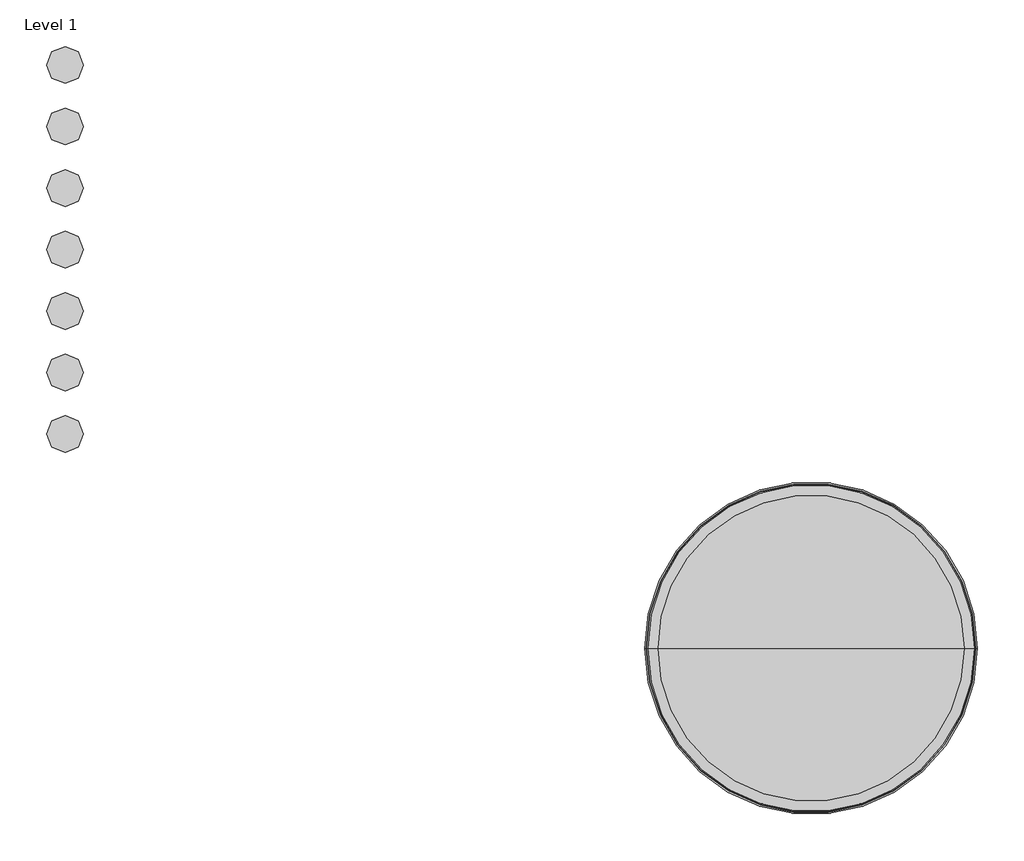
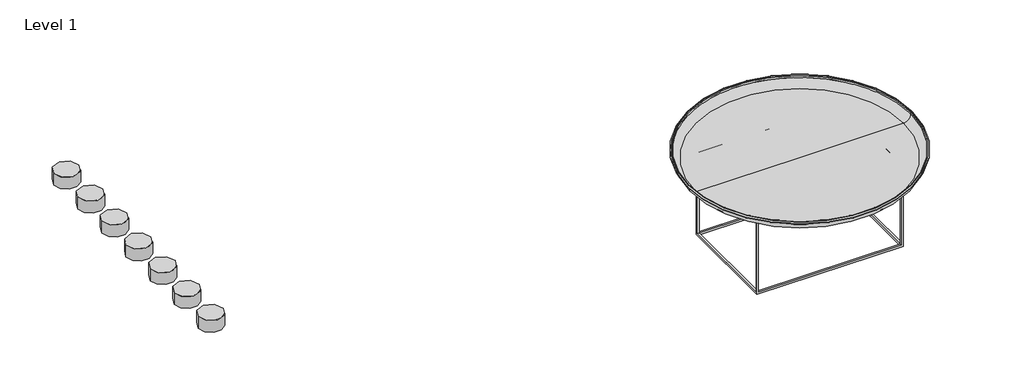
# One storey, incomplete: 7 proxies, 1 furniture element.
"""IFC4 building model written with IfcOpenShell, lengths in millimetres."""

from ifc_helpers import new_model, si_unit, origin, place, context, project, spatial, transform, mapped, element, save
from components import materialmodel_materialmodel_02e69005, furniture_5a91d970

model = new_model("IFC4")

# Units and contexts
model_context = context("Model", 3, world=origin())
ifc_project = project(units=[si_unit("LENGTHUNIT", "METRE", prefix="MILLI")], contexts=[model_context])

# Site, building, storey
site = spatial("IfcSite", under=ifc_project)
building = spatial("IfcBuilding", under=site)
storey = spatial("IfcBuildingStorey", under=building, Name="Level 1", Elevation=0.0)

# Proxies
placement = place(None, origin())
materialmodel_materialmodel_shape = materialmodel_materialmodel_02e69005(model_context)
element("IfcBuildingElementProxy", 1, Name="MaterialModel : MaterialModel", ObjectType="MaterialModel : MaterialModel", at=placement, inside=storey, context=model_context, shape_type="MappedRepresentation", body=[
    mapped(materialmodel_materialmodel_shape, transform((-4609.0792248, 4217.7392993, 0.0), x_axis=(1.0, 0.0, 0.0), y_axis=(0.0, 1.0, 0.0), z_axis=(0.0, 0.0, 1.0))),
])
element("IfcBuildingElementProxy", 2, Name="MaterialModel : MaterialModel", ObjectType="MaterialModel : MaterialModel", at=placement, inside=storey, context=model_context, shape_type="MappedRepresentation", body=[
    mapped(materialmodel_materialmodel_shape, transform((-4609.0792248, 4051.0726327, 0.0), x_axis=(1.0, 0.0, 0.0), y_axis=(0.0, 1.0, 0.0), z_axis=(0.0, 0.0, 1.0))),
])
element("IfcBuildingElementProxy", 3, Name="MaterialModel : MaterialModel", ObjectType="MaterialModel : MaterialModel", at=placement, inside=storey, context=model_context, shape_type="MappedRepresentation", body=[
    mapped(materialmodel_materialmodel_shape, transform((-4609.0792248, 3884.405966, 0.0), x_axis=(1.0, 0.0, 0.0), y_axis=(0.0, 1.0, 0.0), z_axis=(0.0, 0.0, 1.0))),
])
element("IfcBuildingElementProxy", 4, Name="MaterialModel : MaterialModel", ObjectType="MaterialModel : MaterialModel", at=placement, inside=storey, context=model_context, shape_type="MappedRepresentation", body=[
    mapped(materialmodel_materialmodel_shape, transform((-4609.0792248, 3717.7392993, 0.0), x_axis=(1.0, 0.0, 0.0), y_axis=(0.0, 1.0, 0.0), z_axis=(0.0, 0.0, 1.0))),
])
element("IfcBuildingElementProxy", 5, Name="MaterialModel : MaterialModel", ObjectType="MaterialModel : MaterialModel", at=placement, inside=storey, context=model_context, shape_type="MappedRepresentation", body=[
    mapped(materialmodel_materialmodel_shape, transform((-4609.0792248, 3551.0726327, 0.0), x_axis=(1.0, 0.0, 0.0), y_axis=(0.0, 1.0, 0.0), z_axis=(0.0, 0.0, 1.0))),
])
element("IfcBuildingElementProxy", 6, Name="MaterialModel : MaterialModel", ObjectType="MaterialModel : MaterialModel", at=placement, inside=storey, context=model_context, shape_type="MappedRepresentation", body=[
    mapped(materialmodel_materialmodel_shape, transform((-4609.0792248, 3384.405966, 0.0), x_axis=(1.0, 0.0, 0.0), y_axis=(0.0, 1.0, 0.0), z_axis=(0.0, 0.0, 1.0))),
])
element("IfcBuildingElementProxy", 7, Name="MaterialModel : MaterialModel", ObjectType="MaterialModel : MaterialModel", at=placement, inside=storey, context=model_context, shape_type="MappedRepresentation", body=[
    mapped(materialmodel_materialmodel_shape, transform((-4609.0792248, 3217.7392993, 0.0), x_axis=(1.0, 0.0, 0.0), y_axis=(0.0, 1.0, 0.0), z_axis=(0.0, 0.0, 1.0))),
])

# Furniture
furniture_shape = furniture_5a91d970(model_context)
element("IfcFurniture", 8, ObjectType="Norr11 - Duke - Coffe Table - Large : Norr11 - Duke - Coffe Table - Large", at=placement, inside=storey, context=model_context, shape_type="MappedRepresentation", body=[
    mapped(furniture_shape, transform((-2588.0643439, 2636.9440741, 0.0), x_axis=(1.0, 0.0, 0.0), y_axis=(0.0, 1.0, 0.0), z_axis=(0.0, 0.0, 1.0))),
])

save(model, "model.ifc")
